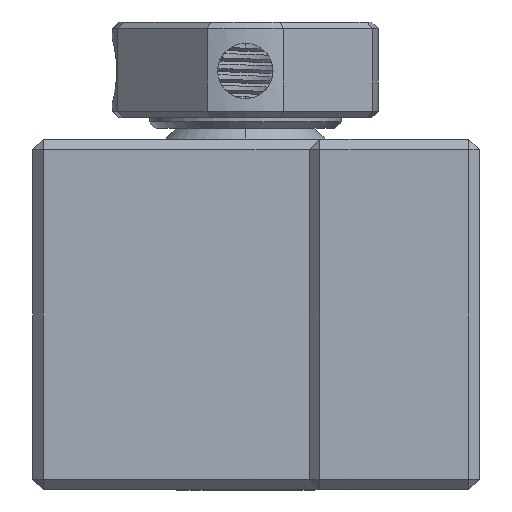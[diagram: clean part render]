
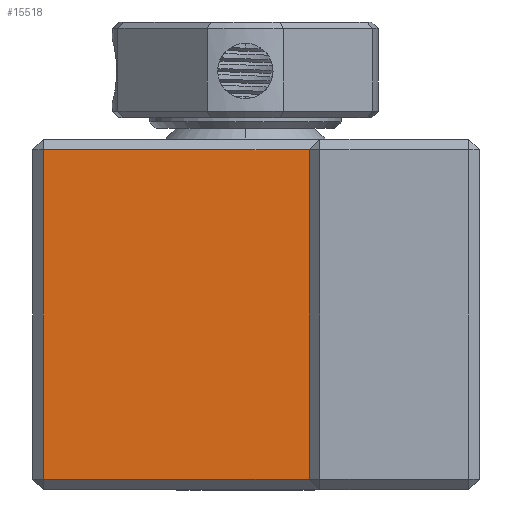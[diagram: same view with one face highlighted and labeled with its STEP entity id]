
A CAD part, left-side view. The second image highlights one B-rep face of the part: STEP entity #15518.
In plain terms, the highlighted planar face has unit normal (-1, 0, 0).
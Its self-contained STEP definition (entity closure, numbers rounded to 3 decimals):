
#15467 = ORIENTED_EDGE ( 'NONE', *, *, #15598, .T. ) ;
#15468 = VERTEX_POINT ( 'NONE', #19261 ) ;
#15471 = VERTEX_POINT ( 'NONE', #19253 ) ;
#15473 = VERTEX_POINT ( 'NONE', #19251 ) ;
#15476 = VERTEX_POINT ( 'NONE', #19241 ) ;
#15485 = ORIENTED_EDGE ( 'NONE', *, *, #15486, .F. ) ;
#15486 = EDGE_CURVE ( 'NONE', #15468, #15473, #19282, .T. ) ;
#15487 = ORIENTED_EDGE ( 'NONE', *, *, #15488, .T. ) ;
#15488 = EDGE_CURVE ( 'NONE', #15471, #15473, #19278, .T. ) ;
#15489 = EDGE_CURVE ( 'NONE', #15476, #15471, #19274, .T. ) ;
#15490 = EDGE_LOOP ( 'NONE', ( #15491, #15487, #15485, #15467 ) ) ;
#15491 = ORIENTED_EDGE ( 'NONE', *, *, #15489, .T. ) ;
#15518 = ADVANCED_FACE ( 'NONE', ( #19268 ), #19267, .F. ) ;
#15598 = EDGE_CURVE ( 'NONE', #15468, #15476, #19366, .T. ) ;
#19241 = CARTESIAN_POINT ( 'NONE',  ( -10., 20.5, 7.75 ) ) ;
#19251 = CARTESIAN_POINT ( 'NONE',  ( -10., 8., -7.75 ) ) ;
#19253 = CARTESIAN_POINT ( 'NONE',  ( -10., 20.5, -7.75 ) ) ;
#19261 = CARTESIAN_POINT ( 'NONE',  ( -10., 8., 7.75 ) ) ;
#19263 = DIRECTION ( 'NONE',  ( 0., 1., 0. ) ) ;
#19264 = DIRECTION ( 'NONE',  ( 1., 0., 0. ) ) ;
#19265 = CARTESIAN_POINT ( 'NONE',  ( -10., 21., 8.25 ) ) ;
#19266 = AXIS2_PLACEMENT_3D ( 'NONE', #19265, #19264, #19263 ) ;
#19267 = PLANE ( 'NONE',  #19266 ) ;
#19268 = FACE_OUTER_BOUND ( 'NONE', #15490, .T. ) ;
#19271 = DIRECTION ( 'NONE',  ( 0., 0., -1. ) ) ;
#19272 = VECTOR ( 'NONE', #19271, 1000. ) ;
#19273 = CARTESIAN_POINT ( 'NONE',  ( -10., 20.5, 8.25 ) ) ;
#19274 = LINE ( 'NONE', #19273, #19272 ) ;
#19275 = DIRECTION ( 'NONE',  ( 0., -1., 0. ) ) ;
#19276 = VECTOR ( 'NONE', #19275, 1000. ) ;
#19277 = CARTESIAN_POINT ( 'NONE',  ( -10., 21., -7.75 ) ) ;
#19278 = LINE ( 'NONE', #19277, #19276 ) ;
#19279 = DIRECTION ( 'NONE',  ( 0., 0., -1. ) ) ;
#19280 = VECTOR ( 'NONE', #19279, 1000. ) ;
#19281 = CARTESIAN_POINT ( 'NONE',  ( -10., 8., 8.25 ) ) ;
#19282 = LINE ( 'NONE', #19281, #19280 ) ;
#19360 = DIRECTION ( 'NONE',  ( 0., 1., 0. ) ) ;
#19361 = VECTOR ( 'NONE', #19360, 1000. ) ;
#19362 = CARTESIAN_POINT ( 'NONE',  ( -10., 21., 7.75 ) ) ;
#19366 = LINE ( 'NONE', #19362, #19361 ) ;
